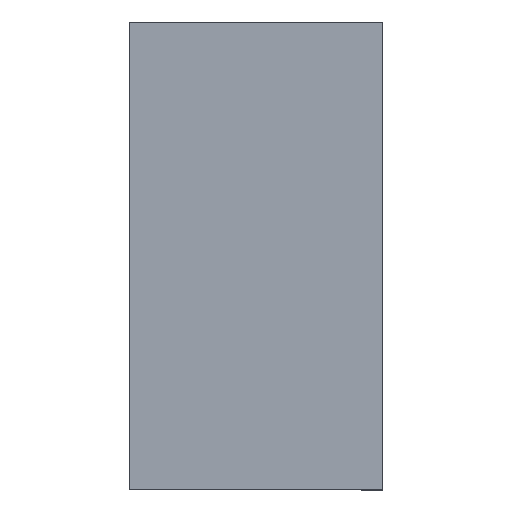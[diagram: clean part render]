
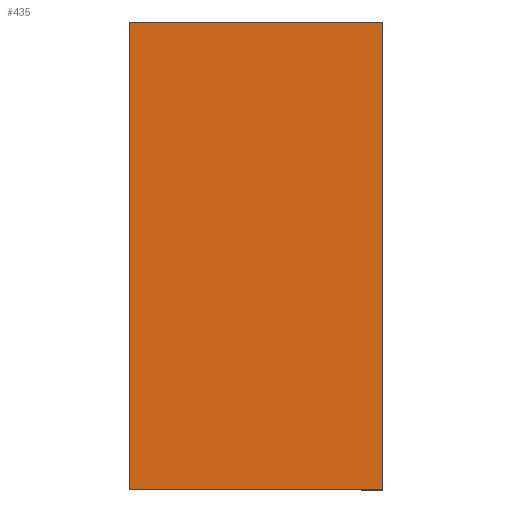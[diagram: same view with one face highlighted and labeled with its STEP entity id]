
A CAD part, top view. The second image highlights one B-rep face of the part: STEP entity #435.
In plain terms, the highlighted planar face has unit normal (0, 0, 1).
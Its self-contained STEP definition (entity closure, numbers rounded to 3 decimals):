
#24 = VERTEX_POINT('',#25);
#25 = CARTESIAN_POINT('',(-149.,0.,10.));
#32 = PLANE('',#33);
#33 = AXIS2_PLACEMENT_3D('',#34,#35,#36);
#34 = CARTESIAN_POINT('',(-149.,0.,0.));
#35 = DIRECTION('',(-1.,0.,0.));
#36 = DIRECTION('',(0.,1.,0.));
#44 = PLANE('',#45);
#45 = AXIS2_PLACEMENT_3D('',#46,#47,#48);
#46 = CARTESIAN_POINT('',(0.,0.,0.));
#47 = DIRECTION('',(0.,-1.,0.));
#48 = DIRECTION('',(-1.,0.,0.));
#56 = EDGE_CURVE('',#24,#57,#59,.T.);
#57 = VERTEX_POINT('',#58);
#58 = CARTESIAN_POINT('',(-149.,275.,10.));
#59 = SURFACE_CURVE('',#60,(#64,#71),.PCURVE_S1.);
#60 = LINE('',#61,#62);
#61 = CARTESIAN_POINT('',(-149.,0.,10.));
#62 = VECTOR('',#63,1.);
#63 = DIRECTION('',(0.,1.,0.));
#64 = PCURVE('',#32,#65);
#65 = DEFINITIONAL_REPRESENTATION('',(#66),#70);
#66 = LINE('',#67,#68);
#67 = CARTESIAN_POINT('',(0.,-10.));
#68 = VECTOR('',#69,1.);
#69 = DIRECTION('',(1.,0.));
#70 = ( GEOMETRIC_REPRESENTATION_CONTEXT(2) 
PARAMETRIC_REPRESENTATION_CONTEXT() REPRESENTATION_CONTEXT('2D SPACE',''
  ) );
#71 = PCURVE('',#72,#77);
#72 = PLANE('',#73);
#73 = AXIS2_PLACEMENT_3D('',#74,#75,#76);
#74 = CARTESIAN_POINT('',(-74.5,137.5,10.));
#75 = DIRECTION('',(-0.,0.,-1.));
#76 = DIRECTION('',(-1.,0.,0.));
#77 = DEFINITIONAL_REPRESENTATION('',(#78),#82);
#78 = LINE('',#79,#80);
#79 = CARTESIAN_POINT('',(74.5,-137.5));
#80 = VECTOR('',#81,1.);
#81 = DIRECTION('',(0.,1.));
#82 = ( GEOMETRIC_REPRESENTATION_CONTEXT(2) 
PARAMETRIC_REPRESENTATION_CONTEXT() REPRESENTATION_CONTEXT('2D SPACE',''
  ) );
#100 = PLANE('',#101);
#101 = AXIS2_PLACEMENT_3D('',#102,#103,#104);
#102 = CARTESIAN_POINT('',(-149.,275.,0.));
#103 = DIRECTION('',(0.,1.,0.));
#104 = DIRECTION('',(1.,0.,0.));
#144 = VERTEX_POINT('',#145);
#145 = CARTESIAN_POINT('',(0.,0.,10.));
#159 = PLANE('',#160);
#160 = AXIS2_PLACEMENT_3D('',#161,#162,#163);
#161 = CARTESIAN_POINT('',(0.,275.,0.));
#162 = DIRECTION('',(1.,0.,0.));
#163 = DIRECTION('',(0.,-1.,0.));
#171 = EDGE_CURVE('',#144,#24,#172,.T.);
#172 = SURFACE_CURVE('',#173,(#177,#184),.PCURVE_S1.);
#173 = LINE('',#174,#175);
#174 = CARTESIAN_POINT('',(0.,0.,10.));
#175 = VECTOR('',#176,1.);
#176 = DIRECTION('',(-1.,0.,0.));
#177 = PCURVE('',#44,#178);
#178 = DEFINITIONAL_REPRESENTATION('',(#179),#183);
#179 = LINE('',#180,#181);
#180 = CARTESIAN_POINT('',(0.,-10.));
#181 = VECTOR('',#182,1.);
#182 = DIRECTION('',(1.,0.));
#183 = ( GEOMETRIC_REPRESENTATION_CONTEXT(2) 
PARAMETRIC_REPRESENTATION_CONTEXT() REPRESENTATION_CONTEXT('2D SPACE',''
  ) );
#184 = PCURVE('',#72,#185);
#185 = DEFINITIONAL_REPRESENTATION('',(#186),#190);
#186 = LINE('',#187,#188);
#187 = CARTESIAN_POINT('',(-74.5,-137.5));
#188 = VECTOR('',#189,1.);
#189 = DIRECTION('',(1.,0.));
#190 = ( GEOMETRIC_REPRESENTATION_CONTEXT(2) 
PARAMETRIC_REPRESENTATION_CONTEXT() REPRESENTATION_CONTEXT('2D SPACE',''
  ) );
#280 = EDGE_CURVE('',#57,#281,#283,.T.);
#281 = VERTEX_POINT('',#282);
#282 = CARTESIAN_POINT('',(0.,275.,10.));
#283 = SURFACE_CURVE('',#284,(#288,#295),.PCURVE_S1.);
#284 = LINE('',#285,#286);
#285 = CARTESIAN_POINT('',(-149.,275.,10.));
#286 = VECTOR('',#287,1.);
#287 = DIRECTION('',(1.,0.,0.));
#288 = PCURVE('',#100,#289);
#289 = DEFINITIONAL_REPRESENTATION('',(#290),#294);
#290 = LINE('',#291,#292);
#291 = CARTESIAN_POINT('',(0.,-10.));
#292 = VECTOR('',#293,1.);
#293 = DIRECTION('',(1.,0.));
#294 = ( GEOMETRIC_REPRESENTATION_CONTEXT(2) 
PARAMETRIC_REPRESENTATION_CONTEXT() REPRESENTATION_CONTEXT('2D SPACE',''
  ) );
#295 = PCURVE('',#72,#296);
#296 = DEFINITIONAL_REPRESENTATION('',(#297),#301);
#297 = LINE('',#298,#299);
#298 = CARTESIAN_POINT('',(74.5,137.5));
#299 = VECTOR('',#300,1.);
#300 = DIRECTION('',(-1.,0.));
#301 = ( GEOMETRIC_REPRESENTATION_CONTEXT(2) 
PARAMETRIC_REPRESENTATION_CONTEXT() REPRESENTATION_CONTEXT('2D SPACE',''
  ) );
#435 = ADVANCED_FACE('',(#436),#72,.F.);
#436 = FACE_BOUND('',#437,.F.);
#437 = EDGE_LOOP('',(#438,#439,#440,#461));
#438 = ORIENTED_EDGE('',*,*,#56,.T.);
#439 = ORIENTED_EDGE('',*,*,#280,.T.);
#440 = ORIENTED_EDGE('',*,*,#441,.T.);
#441 = EDGE_CURVE('',#281,#144,#442,.T.);
#442 = SURFACE_CURVE('',#443,(#447,#454),.PCURVE_S1.);
#443 = LINE('',#444,#445);
#444 = CARTESIAN_POINT('',(0.,275.,10.));
#445 = VECTOR('',#446,1.);
#446 = DIRECTION('',(0.,-1.,0.));
#447 = PCURVE('',#72,#448);
#448 = DEFINITIONAL_REPRESENTATION('',(#449),#453);
#449 = LINE('',#450,#451);
#450 = CARTESIAN_POINT('',(-74.5,137.5));
#451 = VECTOR('',#452,1.);
#452 = DIRECTION('',(0.,-1.));
#453 = ( GEOMETRIC_REPRESENTATION_CONTEXT(2) 
PARAMETRIC_REPRESENTATION_CONTEXT() REPRESENTATION_CONTEXT('2D SPACE',''
  ) );
#454 = PCURVE('',#159,#455);
#455 = DEFINITIONAL_REPRESENTATION('',(#456),#460);
#456 = LINE('',#457,#458);
#457 = CARTESIAN_POINT('',(0.,-10.));
#458 = VECTOR('',#459,1.);
#459 = DIRECTION('',(1.,0.));
#460 = ( GEOMETRIC_REPRESENTATION_CONTEXT(2) 
PARAMETRIC_REPRESENTATION_CONTEXT() REPRESENTATION_CONTEXT('2D SPACE',''
  ) );
#461 = ORIENTED_EDGE('',*,*,#171,.T.);
